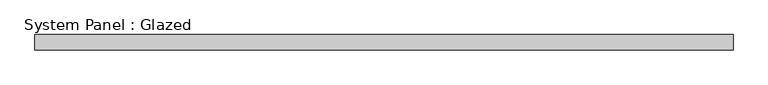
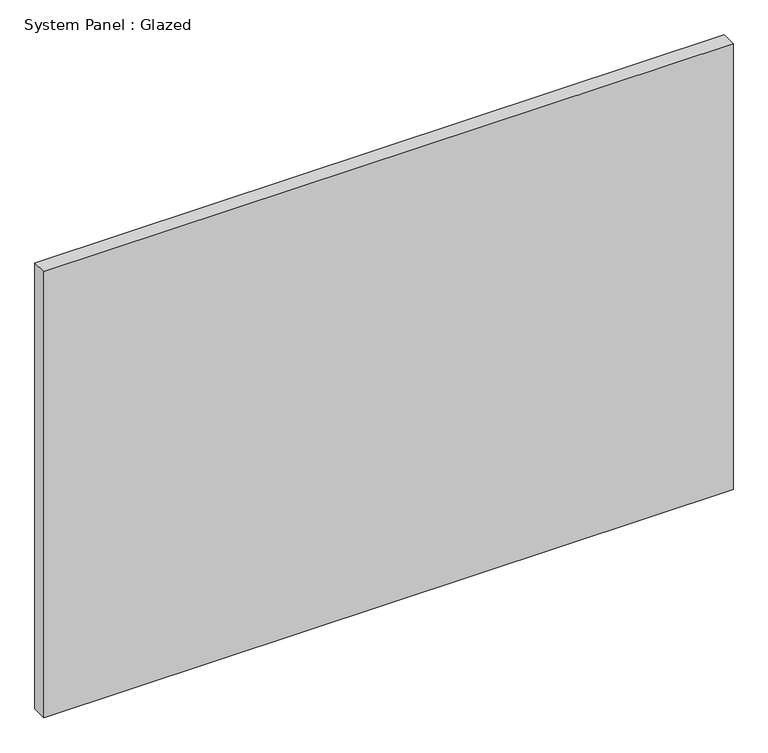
"""IFC4 building model written with IfcOpenShell, lengths in millimetres: plate geometry, System Panel : Glazed."""

from ifc_helpers import new_model, si_unit, origin, origin_with_axes, place, context, project, spatial, polyline, outline, extrude, source, transform, mapped, element, save


def system_panel_glazed_f91b51b3(model_context):
    return source(origin(), model_context, "Body", "SweptSolid", [
        extrude(outline(polyline([(575.3100001, 19.05), (-575.3100001, 19.05), (-575.3100001, 44.45), (575.3100001, 44.45), (575.3100001, 19.05)])), origin_with_axes(), (0.0, 0.0, 1.0), 787.4),
    ])


if __name__ == "__main__":
    model = new_model("IFC4")
    model_context = context("Model", 3, world=origin())
    ifc_project = project(units=[si_unit("LENGTHUNIT", "METRE", prefix="MILLI")], contexts=[model_context])
    site = spatial("IfcSite", under=ifc_project)
    building = spatial("IfcBuilding", under=site)
    placement = place(None, origin())
    system_panel_glazed_shape = system_panel_glazed_f91b51b3(model_context)
    element("IfcPlate", 1, ObjectType="System Panel : Glazed", at=placement, inside=building, context=model_context, shape_type="MappedRepresentation", body=[
        mapped(system_panel_glazed_shape, transform((0.0, 0.0, 0.0), x_axis=(1.0, 0.0, 0.0), y_axis=(0.0, 1.0, 0.0), z_axis=(0.0, 0.0, 1.0))),
    ])
    save(model, "model.ifc")
